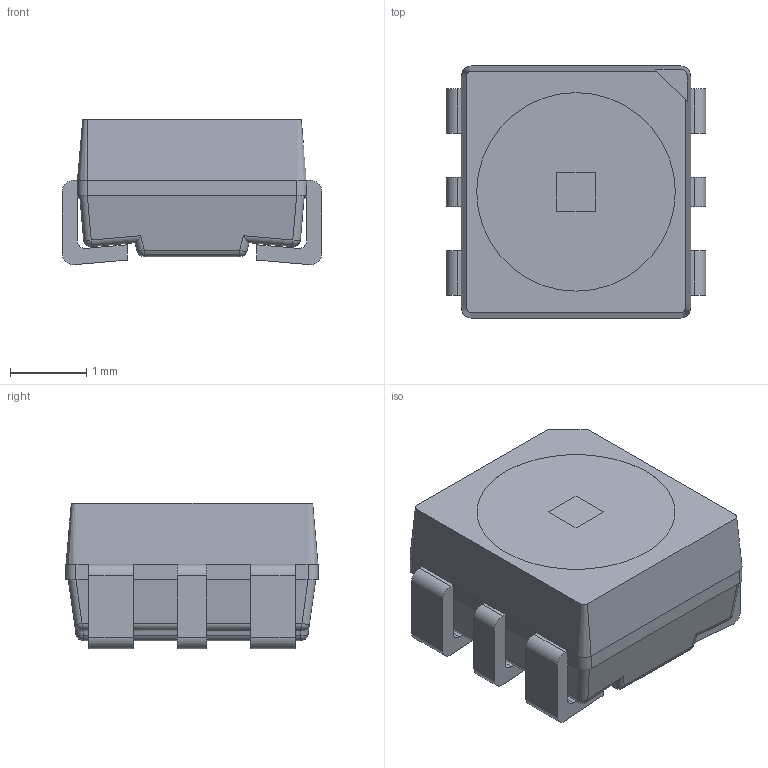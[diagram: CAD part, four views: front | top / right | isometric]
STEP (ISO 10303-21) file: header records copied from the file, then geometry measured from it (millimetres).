
FILE_DESCRIPTION (( 'STEP AP214' ), '1' );
FILE_NAME ('LYC.STEP', '2025-03-23T07:35:10', ( '' ), ( '' ), 'SwSTEP 2.0', 'SolidWorks 2022', '' );
FILE_SCHEMA (( 'AUTOMOTIVE_DESIGN' ));
Length unit declared in the file: millimetre
Products named in the file (1): LYC
Bounding box: 3.4 x 3.3 x 1.9 mm (x, y, z)
Volume: 16.9 mm3; surface area: 53.6 mm2
Topology: 1 solids, 1 shells, 145 faces, 385 edges, 245 vertices
Faces by surface type: plane 83, cylinder 48, sphere 10, bspline 2, cone 2
Entity records: 5559 total; most frequent: CARTESIAN_POINT 1201, ORIENTED_EDGE 770, DIRECTION 728, EDGE_CURVE 385, VECTOR 264, LINE 264, VERTEX_POINT 245, AXIS2_PLACEMENT_3D 232
